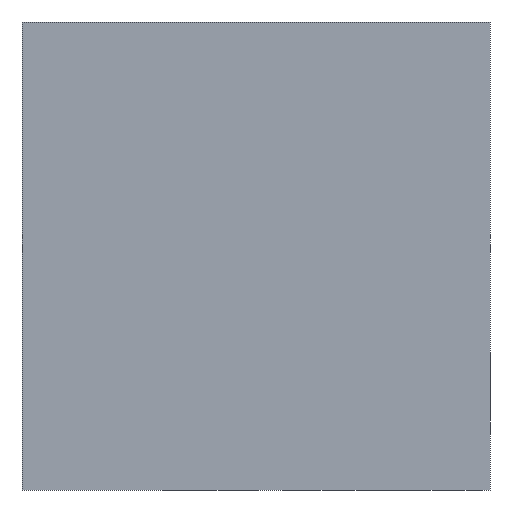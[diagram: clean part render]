
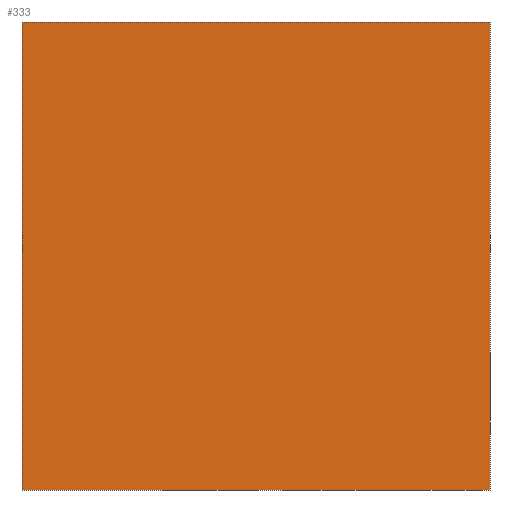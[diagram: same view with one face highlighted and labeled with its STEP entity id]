
A CAD part, front view. The second image highlights one B-rep face of the part: STEP entity #333.
In plain terms, the highlighted planar face has unit normal (0, -1, 0).
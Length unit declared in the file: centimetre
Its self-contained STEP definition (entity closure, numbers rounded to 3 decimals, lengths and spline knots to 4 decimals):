
#83 = CARTESIAN_POINT ( 'NONE',  ( 0., 0., 1000. ) ) ;
#98 = VERTEX_POINT ( 'NONE', #1038 ) ;
#119 = VERTEX_POINT ( 'NONE', #793 ) ;
#150 = CARTESIAN_POINT ( 'NONE',  ( 0., 0., 1000. ) ) ;
#203 = LINE ( 'NONE', #606, #801 ) ;
#234 = EDGE_CURVE ( 'NONE', #98, #119, #1030, .T. ) ;
#263 = EDGE_LOOP ( 'NONE', ( #909, #449, #651, #750 ) ) ;
#273 = LINE ( 'NONE', #600, #404 ) ;
#298 = CARTESIAN_POINT ( 'NONE',  ( 1000., 0., 1000. ) ) ;
#307 = FACE_OUTER_BOUND ( 'NONE', #263, .T. ) ;
#308 = AXIS2_PLACEMENT_3D ( 'NONE', #150, #896, #724 ) ;
#333 = ADVANCED_FACE ( 'NONE', ( #307 ), #630, .F. ) ;
#371 = DIRECTION ( 'NONE',  ( 1., 0., 0. ) ) ;
#404 = VECTOR ( 'NONE', #929, 100. ) ;
#449 = ORIENTED_EDGE ( 'NONE', *, *, #667, .F. ) ;
#497 = VERTEX_POINT ( 'NONE', #83 ) ;
#504 = CARTESIAN_POINT ( 'NONE',  ( 0., 0., 1000. ) ) ;
#509 = VECTOR ( 'NONE', #371, 100. ) ;
#583 = DIRECTION ( 'NONE',  ( 1., 0., 0. ) ) ;
#590 = LINE ( 'NONE', #504, #1032 ) ;
#598 = DIRECTION ( 'NONE',  ( 0., 0., -1. ) ) ;
#600 = CARTESIAN_POINT ( 'NONE',  ( 0., 0., 1000. ) ) ;
#606 = CARTESIAN_POINT ( 'NONE',  ( 1000., 0., 1000. ) ) ;
#630 = PLANE ( 'NONE',  #308 ) ;
#651 = ORIENTED_EDGE ( 'NONE', *, *, #695, .F. ) ;
#667 = EDGE_CURVE ( 'NONE', #997, #119, #203, .T. ) ;
#695 = EDGE_CURVE ( 'NONE', #497, #997, #590, .T. ) ;
#697 = CARTESIAN_POINT ( 'NONE',  ( 0., 0., 0. ) ) ;
#724 = DIRECTION ( 'NONE',  ( 0., 0., 1. ) ) ;
#750 = ORIENTED_EDGE ( 'NONE', *, *, #940, .T. ) ;
#793 = CARTESIAN_POINT ( 'NONE',  ( 1000., 0., 0. ) ) ;
#801 = VECTOR ( 'NONE', #598, 100. ) ;
#896 = DIRECTION ( 'NONE',  ( 0., 1., 0. ) ) ;
#909 = ORIENTED_EDGE ( 'NONE', *, *, #234, .T. ) ;
#929 = DIRECTION ( 'NONE',  ( 0., 0., -1. ) ) ;
#940 = EDGE_CURVE ( 'NONE', #497, #98, #273, .T. ) ;
#997 = VERTEX_POINT ( 'NONE', #298 ) ;
#1030 = LINE ( 'NONE', #697, #509 ) ;
#1032 = VECTOR ( 'NONE', #583, 100. ) ;
#1038 = CARTESIAN_POINT ( 'NONE',  ( 0., 0., 0. ) ) ;
